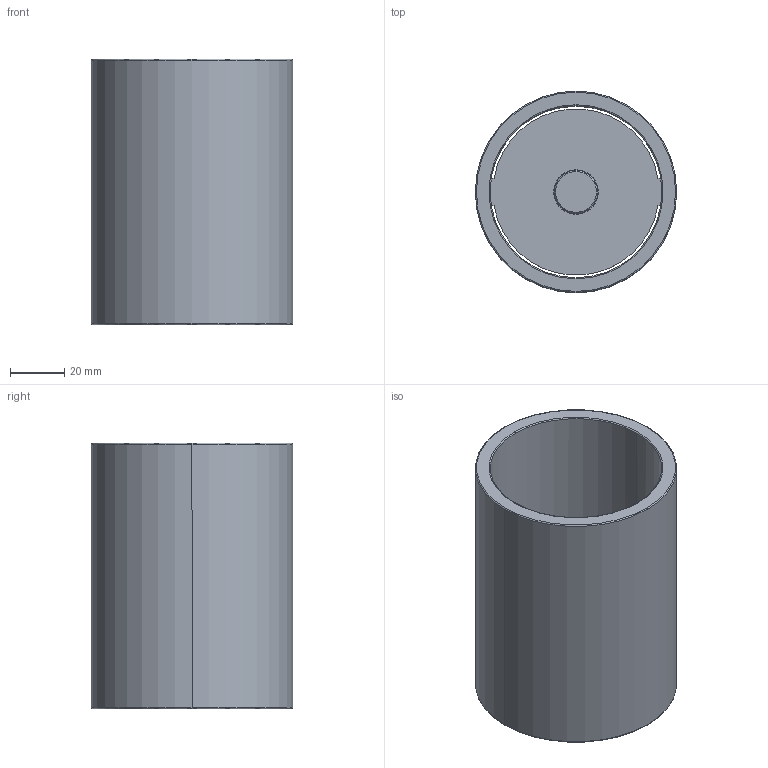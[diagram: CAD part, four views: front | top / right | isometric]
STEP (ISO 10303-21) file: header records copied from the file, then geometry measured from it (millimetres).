
FILE_DESCRIPTION((''),'2;1');
FILE_NAME('C11_063_098.stp','2009-01-12T09:46:17',(''),(''),'Mechanical Desktop 2009','Mechanical Desktop 2009',', , ');
FILE_SCHEMA(('CONFIG_CONTROL_DESIGN'));
Length unit declared in the file: millimetre
Products named in the file (2): Product; blmdl1
Assembly tree (1 placements, depth 2):
  Product
    blmdl1
Bounding box: 74.25 x 74.25 x 98 mm (x, y, z)
Volume: 129910.8 mm3; surface area: 54392.1 mm2
Topology: 3 solids, 3 shells, 44 faces, 110 edges, 74 vertices
Faces by surface type: cylinder 16, plane 16, torus 10, cone 2
Entity records: 1507 total; most frequent: CARTESIAN_POINT 274, DIRECTION 266, ORIENTED_EDGE 220, AXIS2_PLACEMENT_3D 114, EDGE_CURVE 110, VERTEX_POINT 74, CIRCLE 68, EDGE_LOOP 50
